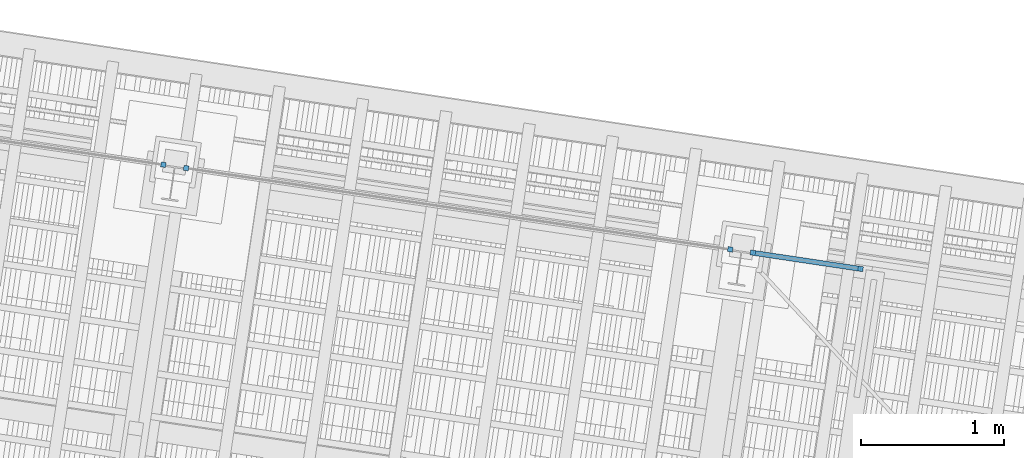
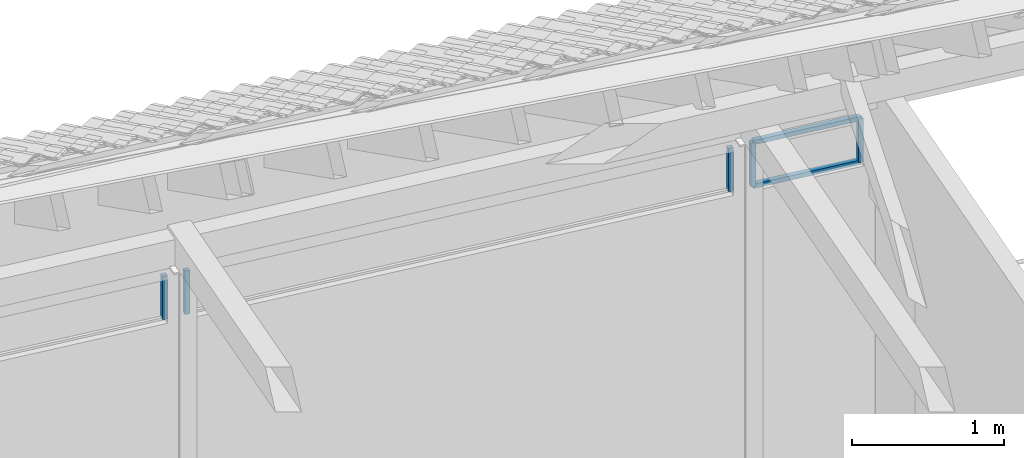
# One storey, part 120 of 131: 7 members.
"""IFC4 building model written with IfcOpenShell, lengths in metres."""

import ifcopenshell
import ifcopenshell.guid

model = None  # the IFC model being written
_history = None  # IfcOwnerHistory: only IFC2X3 demands one
_inside = {}  # id of a spatial element -> (the spatial element, [elements in it])
_under = {}  # id of a project, library or spatial element -> (it, [spatial elements below it])
_declared = {}  # id of a project -> (the project, [libraries it declares])
_typed = {}  # id of a type object -> (the type object, [elements of that type])
_made_of = {}  # id of a material, layer set ... -> (it, [elements and type objects made of it])


def new_model(schema):
    """Start an empty IFC model of exactly this schema.

    Asked for "IFC4X3", IfcOpenShell would pick the latest addendum, in which some entities
    have other attributes; the version numbers below select the first issue.
    IFC2X3 requires an IfcOwnerHistory on every rooted entity: one is made here for all.
    """
    global model, _history
    if schema == "IFC4X3":
        model = ifcopenshell.file(schema_version=(4, 3, 0, 0))
    else:
        model = ifcopenshell.file(schema=schema)
    _inside.clear()
    _under.clear()
    _declared.clear()
    _typed.clear()
    _made_of.clear()
    _history = None
    if model.schema == "IFC2X3":
        org = make("IfcOrganization", Name="unknown")
        user = make(
            "IfcPersonAndOrganization",
            ThePerson=make("IfcPerson", FamilyName="unknown"),
            TheOrganization=org,
        )
        app = make(
            "IfcApplication",
            ApplicationDeveloper=org,
            Version="unknown",
            ApplicationFullName="unknown",
            ApplicationIdentifier="unknown",
        )
        _history = make(
            "IfcOwnerHistory",
            OwningUser=user,
            OwningApplication=app,
            ChangeAction="ADDED",
            CreationDate=0,
        )
    return model


def make(cls, **values):
    """One entity of the class cls with the attributes given. An attribute that is None is left unset."""
    return model.create_entity(
        cls, **{name: value for name, value in values.items() if value is not None}
    )


def rooted(cls, **values):
    """An entity with a GlobalId (a new one), such as an element, a storey or a relation."""
    return make(cls, GlobalId=ifcopenshell.guid.new(), OwnerHistory=_history, **values)


def si_unit(unit_type, name, prefix=None):
    """IfcSIUnit, for example si_unit("LENGTHUNIT", "METRE", prefix="MILLI")."""
    return make("IfcSIUnit", UnitType=unit_type, Prefix=prefix, Name=name)


def assignment(units):
    """IfcUnitAssignment: the units of a project."""
    return None if units is None else make("IfcUnitAssignment", Units=units)


def point(xyz):
    """IfcCartesianPoint."""
    return None if xyz is None else make("IfcCartesianPoint", Coordinates=xyz)


def direction(xyz):
    """IfcDirection."""
    return None if xyz is None else make("IfcDirection", DirectionRatios=xyz)


def frame(location, z_axis=None, x_axis=None):
    """IfcAxis2Placement3D, a coordinate frame: its origin and axes. An axis left out is left unset."""
    return make(
        "IfcAxis2Placement3D",
        Location=point(location),
        Axis=direction(z_axis),
        RefDirection=direction(x_axis),
    )


def origin_with_axes():
    """The frame at (0, 0, 0) with the z axis (0, 0, 1) and the x axis (1, 0, 0) written out."""
    return frame((0.0, 0.0, 0.0), z_axis=(0.0, 0.0, 1.0), x_axis=(1.0, 0.0, 0.0))


def place(relative_to, where):
    """IfcLocalPlacement: puts the frame where relative to a parent placement (None: the world)."""
    return make(
        "IfcLocalPlacement", PlacementRelTo=relative_to, RelativePlacement=where
    )


def context(
    kind, dimensions, precision=None, world=None, true_north=None, identifier=None
):
    """IfcGeometricRepresentationContext, for example the 3D "Model" context."""
    return make(
        "IfcGeometricRepresentationContext",
        ContextIdentifier=identifier,
        ContextType=kind,
        CoordinateSpaceDimension=dimensions,
        Precision=precision,
        WorldCoordinateSystem=world,
        TrueNorth=true_north,
    )


def subcontext(parent, identifier, kind, view, scale=None):
    """IfcGeometricRepresentationSubContext, for example "Body" below "Model"."""
    return make(
        "IfcGeometricRepresentationSubContext",
        ContextIdentifier=identifier,
        ContextType=kind,
        ParentContext=parent,
        TargetScale=scale,
        TargetView=view,
    )


def project(units=None, contexts=None):
    """IfcProject with its units and contexts."""
    return rooted(
        "IfcProject",
        Name="project",
        RepresentationContexts=contexts,
        UnitsInContext=assignment(units),
    )


def spatial(cls, under=None, at=None, **own):
    """A site, building, storey or space (cls), placed at a placement, below another one or the project."""
    s = rooted(cls, ObjectPlacement=at, **own)
    if under is not None:
        _under.setdefault(under.id(), (under, []))[1].append(s)
    return s


def profile(cls, at=None, kind="AREA", **sizes):
    """A parametric profile (cls). Its sizes go by their IFC names, for example OverallWidth=200.0."""
    return make(cls, ProfileType=kind, Position=at, **sizes)


def rectangle(**sizes):
    """IfcRectangleProfileDef."""
    return profile("IfcRectangleProfileDef", **sizes)


def extrude(swept, where, along, depth):
    """IfcExtrudedAreaSolid: the profile swept, set in the frame where, extruded along a direction by depth."""
    return make(
        "IfcExtrudedAreaSolid",
        SweptArea=swept,
        Position=where,
        ExtrudedDirection=direction(along),
        Depth=depth,
    )


def shape(context_of_items, identifier, shape_type, items):
    """IfcShapeRepresentation: the items that make up one representation, for example the "Body"."""
    return make(
        "IfcShapeRepresentation",
        ContextOfItems=context_of_items,
        RepresentationIdentifier=identifier,
        RepresentationType=shape_type,
        Items=items,
    )


def material(Name=None, Category=None):
    """IfcMaterial."""
    return make("IfcMaterial", Name=Name, Category=Category)


def material_profile(
    of_material, cross_section, Name=None, Category=None, Priority=None
):
    """IfcMaterialProfile: a cross section and its material."""
    return make(
        "IfcMaterialProfile",
        Name=Name,
        Material=of_material,
        Profile=cross_section,
        Priority=Priority,
        Category=Category,
    )


def profile_set(profiles, Name=None, composite=None):
    """IfcMaterialProfileSet."""
    return make(
        "IfcMaterialProfileSet",
        Name=Name,
        MaterialProfiles=profiles,
        CompositeProfile=composite,
    )


def profile_usage(for_profile_set, cardinal=None, extent=None):
    """IfcMaterialProfileSetUsage: how a profile set lies along its element."""
    return make(
        "IfcMaterialProfileSetUsage",
        ForProfileSet=for_profile_set,
        CardinalPoint=cardinal,
        ReferenceExtent=extent,
    )


def made_of(thing, what):
    """Note that an element or type object is made of a material, layer set ...; save() writes the relation."""
    if what is not None:
        _made_of.setdefault(what.id(), (what, []))[1].append(thing)
    return thing


def type_object(cls, material=None, **own):
    """A type object (cls), such as IfcWallType, which elements share."""
    return made_of(rooted(cls, **own), material)


def element(
    cls,
    number,
    at=None,
    inside=None,
    cuts=None,
    type_object=None,
    material=None,
    context=None,
    identifier="Body",
    shape_type=None,
    held_by="IfcProductDefinitionShape",
    body=None,
    shapes=None,
    **own,
):
    """One element of the class cls, such as IfcWall. Its Tag is "e" and its number.

    at: its placement. inside: the storey or other place that contains it. cuts: it is an
    opening in that element (IfcRelVoidsElement). A single representation is given by context,
    identifier, shape_type and body (its items); several are given by shapes. held_by: the class
    of the entity that holds the representations. save() writes the other relations.
    """
    e = rooted(cls, Tag="e%d" % number, ObjectPlacement=at, **own)
    if body is not None:
        shapes = [shape(context, identifier, shape_type, body)]
    if shapes is not None:
        e.Representation = make(held_by, Representations=shapes)
    if inside is not None:
        _inside.setdefault(inside.id(), (inside, []))[1].append(e)
    if cuts is not None:
        rooted(
            "IfcRelVoidsElement", RelatingBuildingElement=cuts, RelatedOpeningElement=e
        )
    if type_object is not None:
        _typed.setdefault(type_object.id(), (type_object, []))[1].append(e)
    return made_of(e, material)


def aggregate(whole, parts):
    """IfcRelAggregates: a whole, such as a stair, and the parts it consists of."""
    return rooted("IfcRelAggregates", RelatingObject=whole, RelatedObjects=parts)


def save(model, path):
    """Write the relations noted so far, then the file.

    IfcRelAggregates (storeys below a building ...), IfcRelContainedInSpatialStructure (elements
    in a storey), IfcRelDefinesByType, IfcRelAssociatesMaterial and IfcRelDeclares: one each for
    every whole, place, type object, material and project.
    """
    for whole, parts in _under.values():
        aggregate(whole, parts)
    for where, things in _inside.values():
        rooted(
            "IfcRelContainedInSpatialStructure",
            RelatedElements=things,
            RelatingStructure=where,
        )
    for kind, things in _typed.values():
        rooted("IfcRelDefinesByType", RelatedObjects=things, RelatingType=kind)
    for what, things in _made_of.values():
        rooted("IfcRelAssociatesMaterial", RelatedObjects=things, RelatingMaterial=what)
    for by, libraries in _declared.values():
        rooted("IfcRelDeclares", RelatingContext=by, RelatedDefinitions=libraries)
    model.write(path)


model = new_model("IFC4")

# Units and contexts
model_context = context("Model", 3, precision=1e-05, world=origin_with_axes(), true_north=direction((0.0, 1.0)))
body_context = subcontext(model_context, "Body", "Model", "MODEL_VIEW")
ifc_project = project(units=[si_unit("VOLUMEUNIT", "CUBIC_METRE"), si_unit("LENGTHUNIT", "METRE"), si_unit("AREAUNIT", "SQUARE_METRE")], contexts=[model_context])

# Site, building, storey
site_placement = place(None, origin_with_axes())
site = spatial("IfcSite", under=ifc_project, at=site_placement, Name="Lares · Rua das Mercês · artigo 4771")
building_placement = place(site_placement, frame((15.0, 9.7, 15.8), z_axis=(0.0, 0.0, 1.0), x_axis=(0.989015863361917, -0.147809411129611, 0.0)))
building = spatial("IfcBuilding", under=site, at=building_placement, Name="Casa Sobreposta")
storey_placement = place(building_placement, origin_with_axes())
storey = spatial("IfcBuildingStorey", under=building, at=storey_placement, Name="00 · Habitação e estacionamento", Elevation=15.8)

# Members
ifc_material = material(Name="Aço pintado / Stahl lackiert", Category="steel")
ifc_material_profile = material_profile(ifc_material, rectangle(XDim=0.035, YDim=0.035))
ifc_profile_set = profile_set([ifc_material_profile], Name="R0.035")
ifc_profile_usage_1 = profile_usage(ifc_profile_set)
member_type = type_object("IfcMemberType", Name="R0.035 / steel", PredefinedType="NOTDEFINED", material=ifc_profile_set)
member_1_placement = place(storey_placement, frame((19.92, 6.4, 2.35), z_axis=(0.0, 0.0, 1.0), x_axis=(1.0, 0.0, 0.0)))
element("IfcMember", 1, at=member_1_placement, inside=storey, type_object=member_type, material=ifc_profile_usage_1, Name="Rasgo norte 5 · montante", context=body_context, shape_type="SweptSolid", body=[
    extrude(rectangle(XDim=0.035, YDim=0.035), origin_with_axes(), (0.0, 0.0, 1.0), 0.35),
])
ifc_profile_usage_2 = profile_usage(ifc_profile_set)
member_2_placement = place(storey_placement, frame((20.08, 6.4, 2.35), z_axis=(0.0, 0.0, 1.0), x_axis=(1.0, 0.0, 0.0)))
element("IfcMember", 2, at=member_2_placement, inside=storey, type_object=member_type, material=ifc_profile_usage_2, Name="Rasgo norte 6 · montante", context=body_context, shape_type="SweptSolid", body=[
    extrude(rectangle(XDim=0.035, YDim=0.035), origin_with_axes(), (0.0, 0.0, 1.0), 0.35),
])
ifc_profile_usage_3 = profile_usage(ifc_profile_set)
member_3_placement = place(storey_placement, frame((23.92, 6.4, 2.35), z_axis=(0.0, 0.0, 1.0), x_axis=(1.0, 0.0, 0.0)))
element("IfcMember", 3, at=member_3_placement, inside=storey, type_object=member_type, material=ifc_profile_usage_3, Name="Rasgo norte 6 · montante", context=body_context, shape_type="SweptSolid", body=[
    extrude(rectangle(XDim=0.035, YDim=0.035), origin_with_axes(), (0.0, 0.0, 1.0), 0.35),
])
ifc_profile_usage_4 = profile_usage(ifc_profile_set)
member_4_placement = place(storey_placement, frame((24.08, 6.4, 2.35), z_axis=(0.0, 0.0, 1.0), x_axis=(1.0, 0.0, 0.0)))
element("IfcMember", 4, at=member_4_placement, inside=storey, type_object=member_type, material=ifc_profile_usage_4, Name="Rasgo norte 7 · montante", context=body_context, shape_type="SweptSolid", body=[
    extrude(rectangle(XDim=0.035, YDim=0.035), origin_with_axes(), (0.0, 0.0, 1.0), 0.35),
])
ifc_profile_usage_5 = profile_usage(ifc_profile_set)
member_5_placement = place(storey_placement, frame((24.84, 6.4, 2.35), z_axis=(0.0, 0.0, 1.0), x_axis=(1.0, 0.0, 0.0)))
element("IfcMember", 5, at=member_5_placement, inside=storey, type_object=member_type, material=ifc_profile_usage_5, Name="Rasgo norte 7 · montante", context=body_context, shape_type="SweptSolid", body=[
    extrude(rectangle(XDim=0.035, YDim=0.035), origin_with_axes(), (0.0, 0.0, 1.0), 0.35),
])
ifc_profile_usage_6 = profile_usage(ifc_profile_set)
member_6_placement = place(storey_placement, frame((24.08, 6.4, 2.35), z_axis=(1.0, 0.0, 0.0), x_axis=(0.0, -1.0, 0.0)))
element("IfcMember", 6, at=member_6_placement, inside=storey, type_object=member_type, material=ifc_profile_usage_6, Name="Rasgo norte 7 · travessa", context=body_context, shape_type="SweptSolid", body=[
    extrude(rectangle(XDim=0.035, YDim=0.035), origin_with_axes(), (0.0, 0.0, 1.0), 0.760000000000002),
])
ifc_profile_usage_7 = profile_usage(ifc_profile_set)
member_7_placement = place(storey_placement, frame((24.08, 6.4, 2.7), z_axis=(1.0, 0.0, 0.0), x_axis=(0.0, -1.0, 0.0)))
element("IfcMember", 7, at=member_7_placement, inside=storey, type_object=member_type, material=ifc_profile_usage_7, Name="Rasgo norte 7 · travessa", context=body_context, shape_type="SweptSolid", body=[
    extrude(rectangle(XDim=0.035, YDim=0.035), origin_with_axes(), (0.0, 0.0, 1.0), 0.760000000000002),
])

save(model, "model.ifc")
